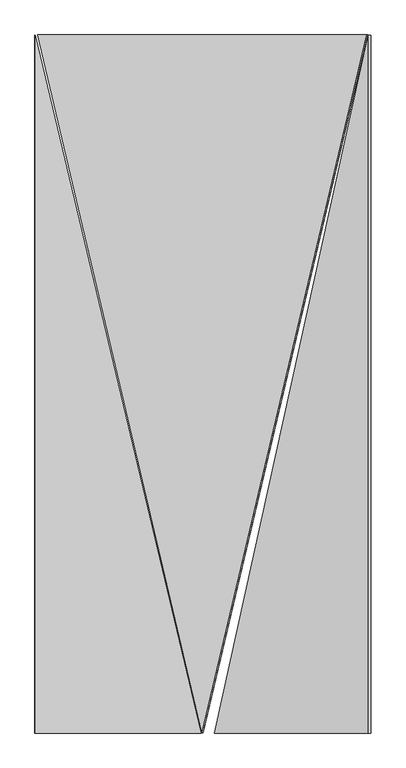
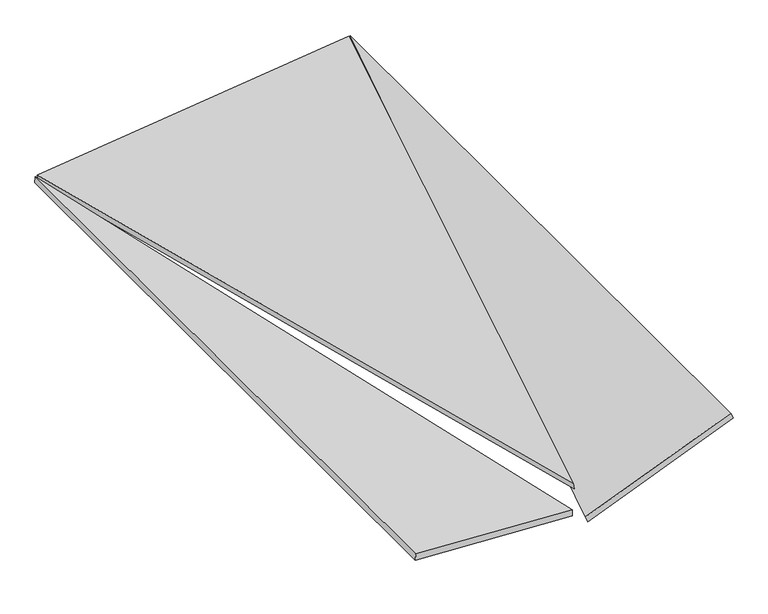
"""IFC4 building model written with IfcOpenShell, lengths in millimetres: proxy geometry, panel sufitowy 6 : panel sufitowy 6."""

import ifcopenshell
import ifcopenshell.guid

model = None  # the IFC model being written
_history = None  # IfcOwnerHistory: only IFC2X3 demands one
_inside = {}  # id of a spatial element -> (the spatial element, [elements in it])
_under = {}  # id of a project, library or spatial element -> (it, [spatial elements below it])
_declared = {}  # id of a project -> (the project, [libraries it declares])
_typed = {}  # id of a type object -> (the type object, [elements of that type])
_made_of = {}  # id of a material, layer set ... -> (it, [elements and type objects made of it])


def new_model(schema):
    """Start an empty IFC model of exactly this schema.

    Asked for "IFC4X3", IfcOpenShell would pick the latest addendum, in which some entities
    have other attributes; the version numbers below select the first issue.
    IFC2X3 requires an IfcOwnerHistory on every rooted entity: one is made here for all.
    """
    global model, _history
    if schema == "IFC4X3":
        model = ifcopenshell.file(schema_version=(4, 3, 0, 0))
    else:
        model = ifcopenshell.file(schema=schema)
    _inside.clear()
    _under.clear()
    _declared.clear()
    _typed.clear()
    _made_of.clear()
    _history = None
    if model.schema == "IFC2X3":
        org = make("IfcOrganization", Name="unknown")
        user = make(
            "IfcPersonAndOrganization",
            ThePerson=make("IfcPerson", FamilyName="unknown"),
            TheOrganization=org,
        )
        app = make(
            "IfcApplication",
            ApplicationDeveloper=org,
            Version="unknown",
            ApplicationFullName="unknown",
            ApplicationIdentifier="unknown",
        )
        _history = make(
            "IfcOwnerHistory",
            OwningUser=user,
            OwningApplication=app,
            ChangeAction="ADDED",
            CreationDate=0,
        )
    return model


def make(cls, **values):
    """One entity of the class cls with the attributes given. An attribute that is None is left unset."""
    return model.create_entity(
        cls, **{name: value for name, value in values.items() if value is not None}
    )


def rooted(cls, **values):
    """An entity with a GlobalId (a new one), such as an element, a storey or a relation."""
    return make(cls, GlobalId=ifcopenshell.guid.new(), OwnerHistory=_history, **values)


def si_unit(unit_type, name, prefix=None):
    """IfcSIUnit, for example si_unit("LENGTHUNIT", "METRE", prefix="MILLI")."""
    return make("IfcSIUnit", UnitType=unit_type, Prefix=prefix, Name=name)


def assignment(units):
    """IfcUnitAssignment: the units of a project."""
    return None if units is None else make("IfcUnitAssignment", Units=units)


def point(xyz):
    """IfcCartesianPoint."""
    return None if xyz is None else make("IfcCartesianPoint", Coordinates=xyz)


def direction(xyz):
    """IfcDirection."""
    return None if xyz is None else make("IfcDirection", DirectionRatios=xyz)


def frame(location, z_axis=None, x_axis=None):
    """IfcAxis2Placement3D, a coordinate frame: its origin and axes. An axis left out is left unset."""
    return make(
        "IfcAxis2Placement3D",
        Location=point(location),
        Axis=direction(z_axis),
        RefDirection=direction(x_axis),
    )


def origin():
    """The frame at (0, 0, 0) with its axes left unset."""
    return frame((0.0, 0.0, 0.0))


def place(relative_to, where):
    """IfcLocalPlacement: puts the frame where relative to a parent placement (None: the world)."""
    return make(
        "IfcLocalPlacement", PlacementRelTo=relative_to, RelativePlacement=where
    )


def context(
    kind, dimensions, precision=None, world=None, true_north=None, identifier=None
):
    """IfcGeometricRepresentationContext, for example the 3D "Model" context."""
    return make(
        "IfcGeometricRepresentationContext",
        ContextIdentifier=identifier,
        ContextType=kind,
        CoordinateSpaceDimension=dimensions,
        Precision=precision,
        WorldCoordinateSystem=world,
        TrueNorth=true_north,
    )


def project(units=None, contexts=None):
    """IfcProject with its units and contexts."""
    return rooted(
        "IfcProject",
        Name="project",
        RepresentationContexts=contexts,
        UnitsInContext=assignment(units),
    )


def spatial(cls, under=None, at=None, **own):
    """A site, building, storey or space (cls), placed at a placement, below another one or the project."""
    s = rooted(cls, ObjectPlacement=at, **own)
    if under is not None:
        _under.setdefault(under.id(), (under, []))[1].append(s)
    return s


def polyline(points):
    """IfcPolyline through the points."""
    return make("IfcPolyline", Points=[point(p) for p in points])


def outline(outer, holes=None, kind="AREA"):
    """IfcArbitraryClosedProfileDef: a profile drawn as a closed curve; with holes, ...WithVoids."""
    if holes is None:
        return make("IfcArbitraryClosedProfileDef", ProfileType=kind, OuterCurve=outer)
    return make(
        "IfcArbitraryProfileDefWithVoids",
        ProfileType=kind,
        OuterCurve=outer,
        InnerCurves=holes,
    )


def extrude(swept, where, along, depth):
    """IfcExtrudedAreaSolid: the profile swept, set in the frame where, extruded along a direction by depth."""
    return make(
        "IfcExtrudedAreaSolid",
        SweptArea=swept,
        Position=where,
        ExtrudedDirection=direction(along),
        Depth=depth,
    )


def shape(context_of_items, identifier, shape_type, items):
    """IfcShapeRepresentation: the items that make up one representation, for example the "Body"."""
    return make(
        "IfcShapeRepresentation",
        ContextOfItems=context_of_items,
        RepresentationIdentifier=identifier,
        RepresentationType=shape_type,
        Items=items,
    )


def source(mapping_origin, context_of_items, identifier, shape_type, items):
    """IfcRepresentationMap: a shape defined once, which mapped items show again and again."""
    return make(
        "IfcRepresentationMap",
        MappingOrigin=mapping_origin,
        MappedRepresentation=shape(context_of_items, identifier, shape_type, items),
    )


def transform(
    local_origin,
    x_axis=None,
    y_axis=None,
    z_axis=None,
    scale=None,
    scale2=None,
    scale3=None,
    uniform=True,
):
    """IfcCartesianTransformationOperator3D, or its non-uniform kind. x_axis, y_axis, z_axis: its Axis1, 2, 3."""
    if uniform:
        return make(
            "IfcCartesianTransformationOperator3D",
            Axis1=direction(x_axis),
            Axis2=direction(y_axis),
            LocalOrigin=point(local_origin),
            Scale=scale,
            Axis3=direction(z_axis),
        )
    return make(
        "IfcCartesianTransformationOperator3DnonUniform",
        Axis1=direction(x_axis),
        Axis2=direction(y_axis),
        LocalOrigin=point(local_origin),
        Scale=scale,
        Axis3=direction(z_axis),
        Scale2=scale2,
        Scale3=scale3,
    )


def mapped(mapping_source, mapping_target):
    """IfcMappedItem: shows the shape of a source again, moved by a transform."""
    return make(
        "IfcMappedItem", MappingSource=mapping_source, MappingTarget=mapping_target
    )


def made_of(thing, what):
    """Note that an element or type object is made of a material, layer set ...; save() writes the relation."""
    if what is not None:
        _made_of.setdefault(what.id(), (what, []))[1].append(thing)
    return thing


def element(
    cls,
    number,
    at=None,
    inside=None,
    cuts=None,
    type_object=None,
    material=None,
    context=None,
    identifier="Body",
    shape_type=None,
    held_by="IfcProductDefinitionShape",
    body=None,
    shapes=None,
    **own,
):
    """One element of the class cls, such as IfcWall. Its Tag is "e" and its number.

    at: its placement. inside: the storey or other place that contains it. cuts: it is an
    opening in that element (IfcRelVoidsElement). A single representation is given by context,
    identifier, shape_type and body (its items); several are given by shapes. held_by: the class
    of the entity that holds the representations. save() writes the other relations.
    """
    e = rooted(cls, Tag="e%d" % number, ObjectPlacement=at, **own)
    if body is not None:
        shapes = [shape(context, identifier, shape_type, body)]
    if shapes is not None:
        e.Representation = make(held_by, Representations=shapes)
    if inside is not None:
        _inside.setdefault(inside.id(), (inside, []))[1].append(e)
    if cuts is not None:
        rooted(
            "IfcRelVoidsElement", RelatingBuildingElement=cuts, RelatedOpeningElement=e
        )
    if type_object is not None:
        _typed.setdefault(type_object.id(), (type_object, []))[1].append(e)
    return made_of(e, material)


def aggregate(whole, parts):
    """IfcRelAggregates: a whole, such as a stair, and the parts it consists of."""
    return rooted("IfcRelAggregates", RelatingObject=whole, RelatedObjects=parts)


def save(model, path):
    """Write the relations noted so far, then the file.

    IfcRelAggregates (storeys below a building ...), IfcRelContainedInSpatialStructure (elements
    in a storey), IfcRelDefinesByType, IfcRelAssociatesMaterial and IfcRelDeclares: one each for
    every whole, place, type object, material and project.
    """
    for whole, parts in _under.values():
        aggregate(whole, parts)
    for where, things in _inside.values():
        rooted(
            "IfcRelContainedInSpatialStructure",
            RelatedElements=things,
            RelatingStructure=where,
        )
    for kind, things in _typed.values():
        rooted("IfcRelDefinesByType", RelatedObjects=things, RelatingType=kind)
    for what, things in _made_of.values():
        rooted("IfcRelAssociatesMaterial", RelatedObjects=things, RelatingMaterial=what)
    for by, libraries in _declared.values():
        rooted("IfcRelDeclares", RelatingContext=by, RelatedDefinitions=libraries)
    model.write(path)


def generic_models_ebd2a3c5(model_context):
    return source(origin(), model_context, "Body", "SweptSolid", [
        extrude(outline(polyline([(-900.9098917, -1e-07), (1235.4098448, 0.0), (1006.1909889, -962.7191946), (-900.9098917, -1e-07)])), frame((549.9360826, -1457.4151922, 1252.0362608), z_axis=(-0.12186934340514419, 0.0, 0.9925461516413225), x_axis=(-0.22989406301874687, 0.9728062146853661, -0.028227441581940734)), (0.0, 0.0, 1.0), 20.0),
        extrude(outline(polyline([(-127.5, 0.0), (-622.5, 0.0), (-127.5, 2079.0), (-127.5, 0.0)])), frame((1376.2242102, -2335.0, 1386.7389339), z_axis=(-0.3746065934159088, 0.0, 0.9271838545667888), x_axis=(0.9271838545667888, 0.0, 0.3746065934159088)), (0.0, 0.0, 1.0), 20.0),
        extrude(outline(polyline([(-127.4999999, 0.0), (-127.4999999, -2079.0), (-622.4999999, 0.0), (-127.4999999, 0.0)])), frame((128.2113899, -2335.0, 1222.5613908), z_axis=(0.052335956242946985, 0.0, 0.9986295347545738), x_axis=(-0.9986295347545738, 0.0, 0.052335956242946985)), (0.0, 0.0, 1.0), 20.0),
    ])


if __name__ == "__main__":
    model = new_model("IFC4")
    model_context = context("Model", 3, world=origin())
    ifc_project = project(units=[si_unit("LENGTHUNIT", "METRE", prefix="MILLI")], contexts=[model_context])
    site = spatial("IfcSite", under=ifc_project)
    building = spatial("IfcBuilding", under=site)
    placement = place(None, origin())
    generic_models_shape = generic_models_ebd2a3c5(model_context)
    element("IfcBuildingElementProxy", 1, Name="panel sufitowy 6 : panel sufitowy 6", ObjectType="panel sufitowy 6 : panel sufitowy 6", at=placement, inside=building, context=model_context, shape_type="MappedRepresentation", body=[
        mapped(generic_models_shape, transform((0.0, 0.0, 0.0), x_axis=(1.0, 0.0, 0.0), y_axis=(0.0, 1.0, 0.0), z_axis=(0.0, 0.0, 1.0))),
    ])
    save(model, "model.ifc")
